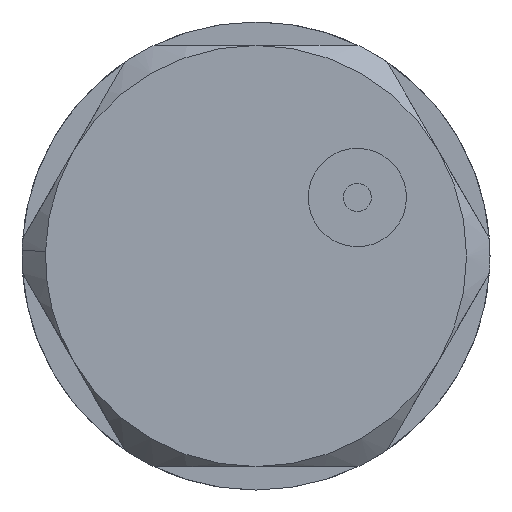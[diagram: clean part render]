
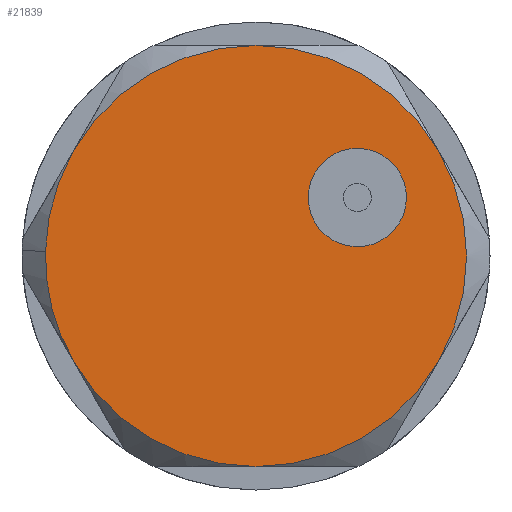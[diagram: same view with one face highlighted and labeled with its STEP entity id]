
A CAD part, front view. The second image highlights one B-rep face of the part: STEP entity #21839.
In plain terms, the highlighted planar face has unit normal (0, -1, 0).
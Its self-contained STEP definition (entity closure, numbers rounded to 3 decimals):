
#282 = DIRECTION ( 'NONE',  ( 0., -1., 0. ) ) ;
#828 = EDGE_CURVE ( 'NONE', #3340, #2649, #21145, .T. ) ;
#877 = ORIENTED_EDGE ( 'NONE', *, *, #10946, .T. ) ;
#913 = AXIS2_PLACEMENT_3D ( 'NONE', #26866, #22903, #20710 ) ;
#916 = DIRECTION ( 'NONE',  ( 0., -1., 0. ) ) ;
#938 = EDGE_LOOP ( 'NONE', ( #1970, #23182 ) ) ;
#974 = VERTEX_POINT ( 'NONE', #3057 ) ;
#1627 = ORIENTED_EDGE ( 'NONE', *, *, #18304, .T. ) ;
#1811 = ORIENTED_EDGE ( 'NONE', *, *, #11249, .T. ) ;
#1956 = DIRECTION ( 'NONE',  ( -0.023, 0., -1. ) ) ;
#1970 = ORIENTED_EDGE ( 'NONE', *, *, #18270, .T. ) ;
#2052 = AXIS2_PLACEMENT_3D ( 'NONE', #8126, #22744, #10224 ) ;
#2124 = EDGE_CURVE ( 'NONE', #19929, #974, #17722, .T. ) ;
#2245 = VERTEX_POINT ( 'NONE', #13024 ) ;
#2498 = CIRCLE ( 'NONE', #13616, 9. ) ;
#2649 = VERTEX_POINT ( 'NONE', #25244 ) ;
#2679 = ORIENTED_EDGE ( 'NONE', *, *, #2124, .T. ) ;
#3057 = CARTESIAN_POINT ( 'NONE',  ( -18.781, -24.745, 54.5 ) ) ;
#3340 = VERTEX_POINT ( 'NONE', #13441 ) ;
#3415 = CIRCLE ( 'NONE', #6192, 9. ) ;
#3416 = EDGE_CURVE ( 'NONE', #10230, #14789, #15004, .T. ) ;
#3808 = CARTESIAN_POINT ( 'NONE',  ( -10.987, -24.745, 50. ) ) ;
#4155 = CARTESIAN_POINT ( 'NONE',  ( -10.987, -24.745, 59. ) ) ;
#4165 = AXIS2_PLACEMENT_3D ( 'NONE', #17923, #5429, #20046 ) ;
#4401 = AXIS2_PLACEMENT_3D ( 'NONE', #13426, #916, #15501 ) ;
#5244 = AXIS2_PLACEMENT_3D ( 'NONE', #7376, #21988, #9490 ) ;
#5429 = DIRECTION ( 'NONE',  ( 0., -1., 0. ) ) ;
#5898 = DIRECTION ( 'NONE',  ( -0.023, 0., -1. ) ) ;
#6192 = AXIS2_PLACEMENT_3D ( 'NONE', #26887, #14434, #1956 ) ;
#7213 = DIRECTION ( 'NONE',  ( 0., -1., 0. ) ) ;
#7376 = CARTESIAN_POINT ( 'NONE',  ( -6.657, -24.745, 52.5 ) ) ;
#8126 = CARTESIAN_POINT ( 'NONE',  ( -6.657, -24.745, 52.5 ) ) ;
#8137 = ORIENTED_EDGE ( 'NONE', *, *, #15916, .T. ) ;
#8215 = AXIS2_PLACEMENT_3D ( 'NONE', #19724, #7213, #21824 ) ;
#9232 = PLANE ( 'NONE',  #8215 ) ;
#9490 = DIRECTION ( 'NONE',  ( 1., 0., -0.023 ) ) ;
#10224 = DIRECTION ( 'NONE',  ( 1., 0., -0.023 ) ) ;
#10230 = VERTEX_POINT ( 'NONE', #22661 ) ;
#10705 = VERTEX_POINT ( 'NONE', #18031 ) ;
#10946 = EDGE_CURVE ( 'NONE', #2649, #10705, #2498, .T. ) ;
#11043 = AXIS2_PLACEMENT_3D ( 'NONE', #11320, #25906, #13452 ) ;
#11249 = EDGE_CURVE ( 'NONE', #24550, #2245, #24014, .T. ) ;
#11320 = CARTESIAN_POINT ( 'NONE',  ( -10.987, -24.745, 50. ) ) ;
#12769 = CARTESIAN_POINT ( 'NONE',  ( -10.987, -24.745, 50. ) ) ;
#13024 = CARTESIAN_POINT ( 'NONE',  ( -18.781, -24.745, 45.5 ) ) ;
#13426 = CARTESIAN_POINT ( 'NONE',  ( -10.987, -24.745, 50. ) ) ;
#13441 = CARTESIAN_POINT ( 'NONE',  ( -10.987, -24.745, 41. ) ) ;
#13452 = DIRECTION ( 'NONE',  ( -1., 0., 0.023 ) ) ;
#13577 = EDGE_CURVE ( 'NONE', #2245, #3340, #17249, .T. ) ;
#13616 = AXIS2_PLACEMENT_3D ( 'NONE', #12769, #282, #14848 ) ;
#14434 = DIRECTION ( 'NONE',  ( 0., -1., 0. ) ) ;
#14789 = VERTEX_POINT ( 'NONE', #15085 ) ;
#14848 = DIRECTION ( 'NONE',  ( -0.023, 0., -1. ) ) ;
#14856 = FACE_BOUND ( 'NONE', #938, .T. ) ;
#15004 = CIRCLE ( 'NONE', #5244, 2.1 ) ;
#15085 = CARTESIAN_POINT ( 'NONE',  ( -4.557, -24.745, 52.453 ) ) ;
#15501 = DIRECTION ( 'NONE',  ( -1., 0., 0.023 ) ) ;
#15916 = EDGE_CURVE ( 'NONE', #974, #24550, #19403, .T. ) ;
#17249 = CIRCLE ( 'NONE', #4401, 9. ) ;
#17722 = CIRCLE ( 'NONE', #26254, 9. ) ;
#17923 = CARTESIAN_POINT ( 'NONE',  ( -10.987, -24.745, 50. ) ) ;
#18031 = CARTESIAN_POINT ( 'NONE',  ( -3.193, -24.745, 54.5 ) ) ;
#18270 = EDGE_CURVE ( 'NONE', #14789, #10230, #24945, .T. ) ;
#18304 = EDGE_CURVE ( 'NONE', #10705, #19929, #3415, .T. ) ;
#18411 = DIRECTION ( 'NONE',  ( 0., -1., 0. ) ) ;
#19319 = ORIENTED_EDGE ( 'NONE', *, *, #13577, .T. ) ;
#19403 = CIRCLE ( 'NONE', #11043, 9. ) ;
#19724 = CARTESIAN_POINT ( 'NONE',  ( -10.987, -24.745, 50. ) ) ;
#19929 = VERTEX_POINT ( 'NONE', #4155 ) ;
#20046 = DIRECTION ( 'NONE',  ( -1., 0., 0.023 ) ) ;
#20710 = DIRECTION ( 'NONE',  ( -1., 0., 0.023 ) ) ;
#21145 = CIRCLE ( 'NONE', #913, 9. ) ;
#21467 = EDGE_LOOP ( 'NONE', ( #8137, #1811, #19319, #25481, #877, #1627, #2679 ) ) ;
#21824 = DIRECTION ( 'NONE',  ( 1., 0., -0.023 ) ) ;
#21839 = ADVANCED_FACE ( 'NONE', ( #25940, #14856 ), #9232, .T. ) ;
#21988 = DIRECTION ( 'NONE',  ( 0., 1., 0. ) ) ;
#22661 = CARTESIAN_POINT ( 'NONE',  ( -8.756, -24.745, 52.547 ) ) ;
#22744 = DIRECTION ( 'NONE',  ( 0., 1., 0. ) ) ;
#22903 = DIRECTION ( 'NONE',  ( 0., -1., 0. ) ) ;
#23182 = ORIENTED_EDGE ( 'NONE', *, *, #3416, .T. ) ;
#24014 = CIRCLE ( 'NONE', #4165, 9. ) ;
#24550 = VERTEX_POINT ( 'NONE', #25819 ) ;
#24945 = CIRCLE ( 'NONE', #2052, 2.1 ) ;
#25244 = CARTESIAN_POINT ( 'NONE',  ( -3.193, -24.745, 45.5 ) ) ;
#25481 = ORIENTED_EDGE ( 'NONE', *, *, #828, .T. ) ;
#25819 = CARTESIAN_POINT ( 'NONE',  ( -19.985, -24.745, 50.203 ) ) ;
#25906 = DIRECTION ( 'NONE',  ( 0., -1., 0. ) ) ;
#25940 = FACE_OUTER_BOUND ( 'NONE', #21467, .T. ) ;
#26254 = AXIS2_PLACEMENT_3D ( 'NONE', #3808, #18411, #5898 ) ;
#26866 = CARTESIAN_POINT ( 'NONE',  ( -10.987, -24.745, 50. ) ) ;
#26887 = CARTESIAN_POINT ( 'NONE',  ( -10.987, -24.745, 50. ) ) ;
